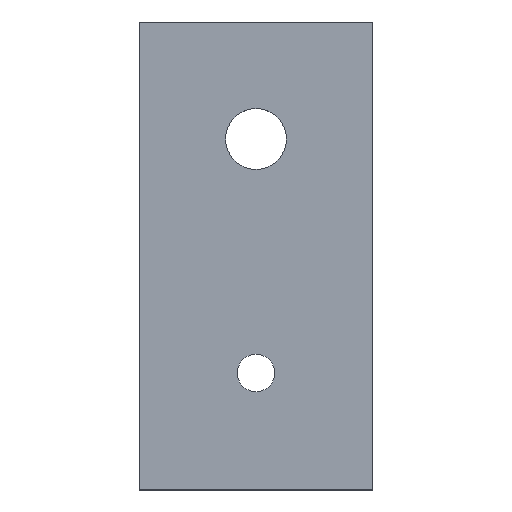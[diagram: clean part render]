
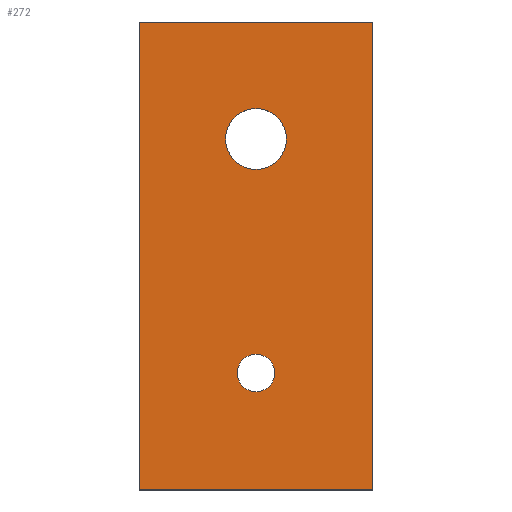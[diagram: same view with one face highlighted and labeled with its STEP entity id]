
A CAD part, top view. The second image highlights one B-rep face of the part: STEP entity #272.
In plain terms, the highlighted planar face has unit normal (0, 0, 1).
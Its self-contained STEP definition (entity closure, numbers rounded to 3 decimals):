
#32=CARTESIAN_POINT('',(0.,0.,2.));
#33=VERTEX_POINT('',#32);
#34=CARTESIAN_POINT('',(25.,0.,2.));
#35=VERTEX_POINT('',#34);
#36=CARTESIAN_POINT('',(-225.,-0.,2.));
#37=DIRECTION('',(1.,0.,0.));
#38=VECTOR('',#37,250.);
#39=LINE('',#36,#38);
#40=EDGE_CURVE('',#33,#35,#39,.T.);
#72=CARTESIAN_POINT('',(25.,-50.,2.));
#73=VERTEX_POINT('',#72);
#74=CARTESIAN_POINT('',(25.,450.,2.));
#75=DIRECTION('',(0.,-1.,0.));
#76=VECTOR('',#75,500.);
#77=LINE('',#74,#76);
#78=EDGE_CURVE('',#35,#73,#77,.T.);
#103=CARTESIAN_POINT('',(0.,-50.,2.));
#104=VERTEX_POINT('',#103);
#105=CARTESIAN_POINT('',(250.,-50.,2.));
#106=DIRECTION('',(-1.,0.,0.));
#107=VECTOR('',#106,250.);
#108=LINE('',#105,#107);
#109=EDGE_CURVE('',#73,#104,#108,.T.);
#134=CARTESIAN_POINT('',(0.,-500.,2.));
#135=DIRECTION('',(0.,1.,0.));
#136=VECTOR('',#135,500.);
#137=LINE('',#134,#136);
#138=EDGE_CURVE('',#104,#33,#137,.T.);
#156=CARTESIAN_POINT('',(9.25,-12.5,2.));
#157=VERTEX_POINT('',#156);
#166=CARTESIAN_POINT('',(15.75,-12.5,2.));
#167=VERTEX_POINT('',#166);
#168=CARTESIAN_POINT('',(12.5,-12.5,2.));
#169=DIRECTION('',(0.,0.,1.));
#170=DIRECTION('',(1.,0.,-0.));
#171=AXIS2_PLACEMENT_3D('',#168,#169,#170);
#172=CIRCLE('',#171,3.25);
#173=EDGE_CURVE('',#157,#167,#172,.T.);
#175=CARTESIAN_POINT('',(12.5,-12.5,2.));
#176=DIRECTION('',(0.,0.,1.));
#177=DIRECTION('',(1.,0.,-0.));
#178=AXIS2_PLACEMENT_3D('',#175,#176,#177);
#179=CIRCLE('',#178,3.25);
#180=EDGE_CURVE('',#167,#157,#179,.T.);
#207=CARTESIAN_POINT('',(10.5,-37.5,2.));
#208=VERTEX_POINT('',#207);
#217=CARTESIAN_POINT('',(14.5,-37.5,2.));
#218=VERTEX_POINT('',#217);
#219=CARTESIAN_POINT('',(12.5,-37.5,2.));
#220=DIRECTION('',(0.,0.,1.));
#221=DIRECTION('',(1.,0.,-0.));
#222=AXIS2_PLACEMENT_3D('',#219,#220,#221);
#223=CIRCLE('',#222,2.);
#224=EDGE_CURVE('',#208,#218,#223,.T.);
#226=CARTESIAN_POINT('',(12.5,-37.5,2.));
#227=DIRECTION('',(0.,0.,1.));
#228=DIRECTION('',(1.,0.,-0.));
#229=AXIS2_PLACEMENT_3D('',#226,#227,#228);
#230=CIRCLE('',#229,2.);
#231=EDGE_CURVE('',#218,#208,#230,.T.);
#253=CARTESIAN_POINT('',(12.5,-25.,2.));
#254=DIRECTION('',(0.,0.,1.));
#255=DIRECTION('',(1.,0.,0.));
#256=AXIS2_PLACEMENT_3D('',#253,#254,#255);
#257=PLANE('',#256);
#258=ORIENTED_EDGE('',*,*,#224,.F.);
#259=ORIENTED_EDGE('',*,*,#231,.F.);
#260=EDGE_LOOP('',(#258,#259));
#261=FACE_BOUND('',#260,.T.);
#262=ORIENTED_EDGE('',*,*,#173,.F.);
#263=ORIENTED_EDGE('',*,*,#180,.F.);
#264=EDGE_LOOP('',(#262,#263));
#265=FACE_BOUND('',#264,.T.);
#266=ORIENTED_EDGE('',*,*,#40,.F.);
#267=ORIENTED_EDGE('',*,*,#138,.F.);
#268=ORIENTED_EDGE('',*,*,#109,.F.);
#269=ORIENTED_EDGE('',*,*,#78,.F.);
#270=EDGE_LOOP('',(#266,#267,#268,#269));
#271=FACE_BOUND('',#270,.T.);
#272=ADVANCED_FACE('',(#261,#265,#271),#257,.T.);
